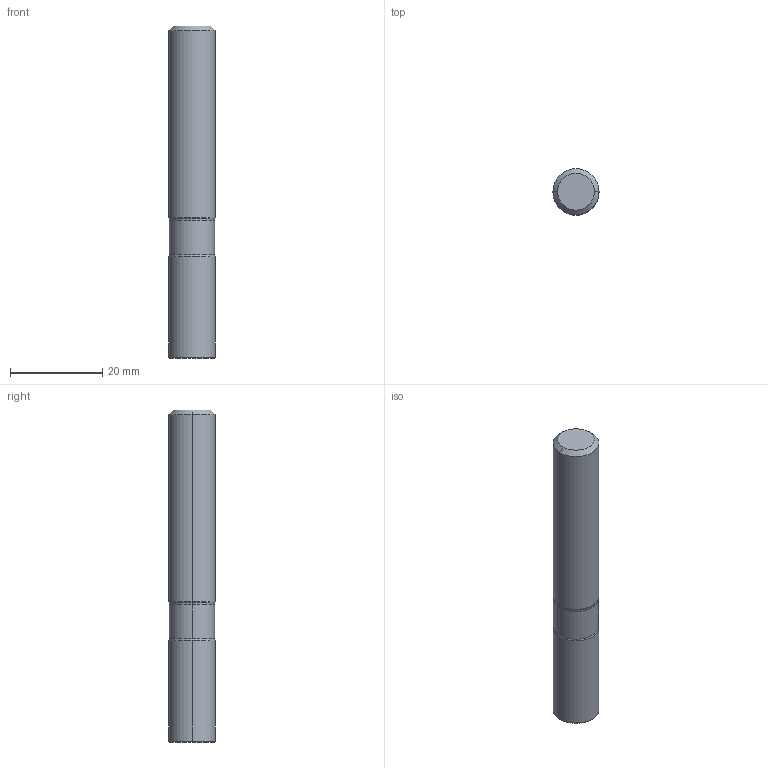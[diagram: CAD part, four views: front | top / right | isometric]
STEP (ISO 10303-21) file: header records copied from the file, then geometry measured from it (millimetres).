
FILE_DESCRIPTION (( 'STEP AP214' ), '1' );
FILE_NAME ('597.100.00_3D-model.step', '2022-02-18T22:43:25', ( '' ), ( '' ), 'SwSTEP 2.0', 'SolidWorks 2020', '' );
FILE_SCHEMA (( 'AUTOMOTIVE_DESIGN' ));
Length unit declared in the file: millimetre
Products named in the file (3): 597.100.00_3D-model; CUT-3D^Baugr10; NOCUT-3D^Baugr10
Assembly tree (2 placements, depth 2):
  597.100.00_3D-model
    CUT-3D^Baugr10
    NOCUT-3D^Baugr10
Bounding box: 10 x 10 x 72 mm (x, y, z)
Volume: 5614.8 mm3; surface area: 2548.4 mm2
Topology: 2 solids, 2 shells, 20 faces, 36 edges, 20 vertices
Faces by surface type: cone 8, cylinder 6, plane 4, torus 2
Entity records: 608 total; most frequent: DIRECTION 114, CARTESIAN_POINT 84, ORIENTED_EDGE 72, AXIS2_PLACEMENT_3D 50, EDGE_CURVE 36, CIRCLE 22, VERTEX_POINT 20, FACE_OUTER_BOUND 20
